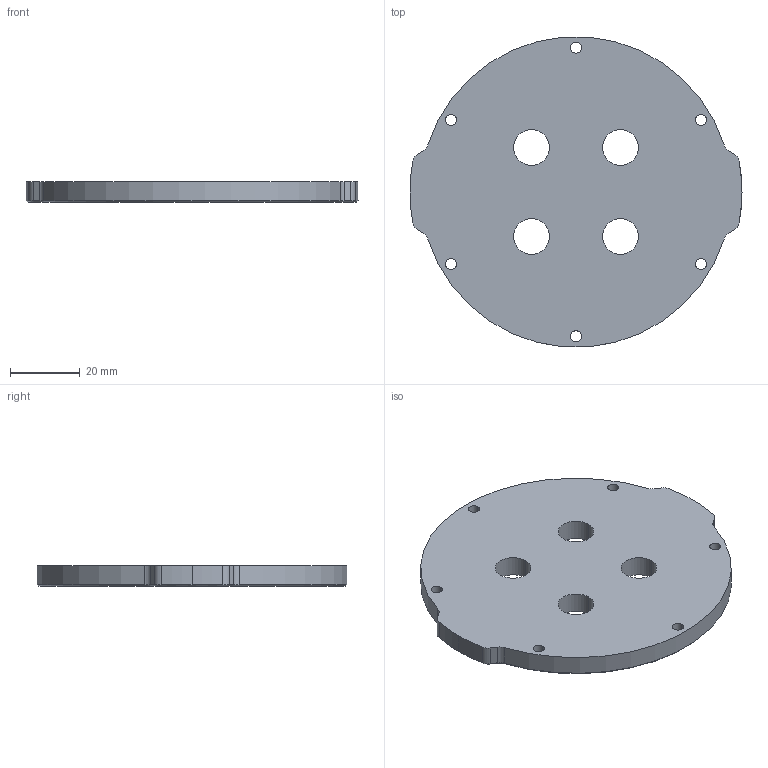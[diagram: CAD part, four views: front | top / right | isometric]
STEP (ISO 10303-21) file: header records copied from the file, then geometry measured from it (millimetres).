
FILE_DESCRIPTION (( 'STEP AP214' ), '1' );
FILE_NAME ('WTE3-M-END-CAP-4-HOLE-R1.STEP', '2018-10-16T22:51:12', ( '' ), ( '' ), 'SwSTEP 2.0', 'SolidWorks 2016', '' );
FILE_SCHEMA (( 'AUTOMOTIVE_DESIGN' ));
Length unit declared in the file: millimetre
Products named in the file (1): WTE3-M-END-CAP-4-HOLE-R1
Bounding box: 95 x 88.59 x 6 mm (x, y, z)
Volume: 35785.9 mm3; surface area: 14704.3 mm2
Topology: 1 solids, 1 shells, 56 faces, 146 edges, 92 vertices
Faces by surface type: cylinder 33, cone 13, plane 10
Entity records: 1816 total; most frequent: DIRECTION 340, CARTESIAN_POINT 295, ORIENTED_EDGE 292, EDGE_CURVE 146, AXIS2_PLACEMENT_3D 137, VERTEX_POINT 92, CIRCLE 80, EDGE_LOOP 76
